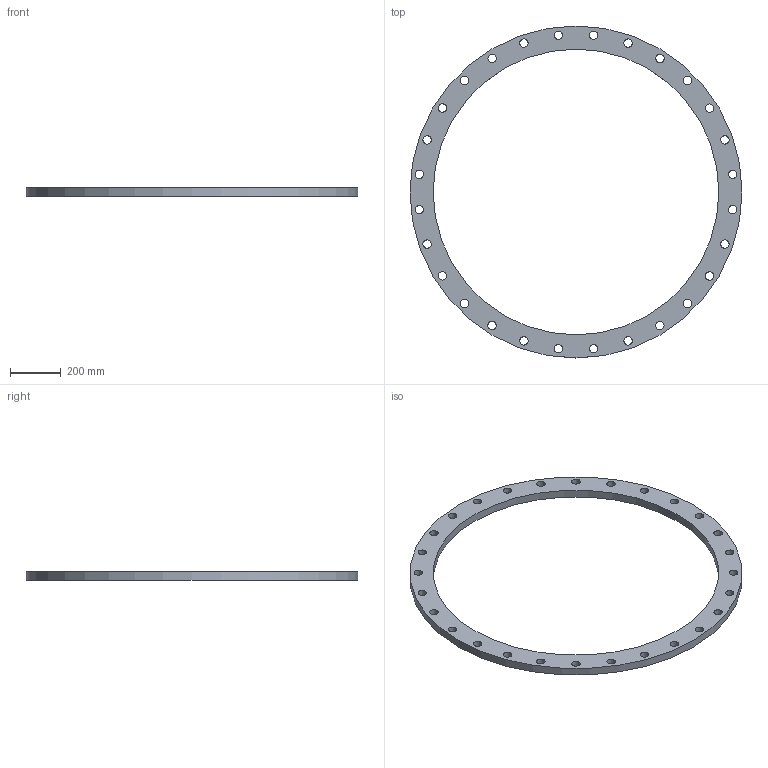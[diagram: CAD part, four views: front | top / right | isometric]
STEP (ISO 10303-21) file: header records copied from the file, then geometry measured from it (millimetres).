
FILE_DESCRIPTION(/* description */ (''),/* implementation_level */ '2;1');
FILE_NAME(/* name */ 'C:\Users\D\Documents\Inventor\HP\JIS\フランジ\JIS 5k sop ff\jis5k-sop-ff-1100.stp',/* time_stamp */ '2024-09-12T16:54:00+09:00',/* author */ ('D'),/* organization */ (''),/* preprocessor_version */ 'ST-DEVELOPER v18',/* originating_system */ 'Autodesk Inventor 2020',/* authorisation */ '');
FILE_SCHEMA (('AUTOMOTIVE_DESIGN { 1 0 10303 214 3 1 1 }'));
Length unit declared in the file: millimetre
Products named in the file (1): jis5k-sop-rf-10
Bounding box: 1305 x 1305 x 32 mm (x, y, z)
Volume: 10339710.3 mm3; surface area: 983211.7 mm2
Topology: 1 solids, 1 shells, 32 faces, 121 edges, 91 vertices
Faces by surface type: cylinder 30, plane 2
Full cylindrical faces by diameter (mm): 33 x28, 1123 x1, 1305 x1
Entity records: 1541 total; most frequent: DIRECTION 278, CARTESIAN_POINT 245, ORIENTED_EDGE 242, AXIS2_PLACEMENT_3D 124, EDGE_CURVE 121, CIRCLE 91, VERTEX_POINT 91, EDGE_LOOP 90
